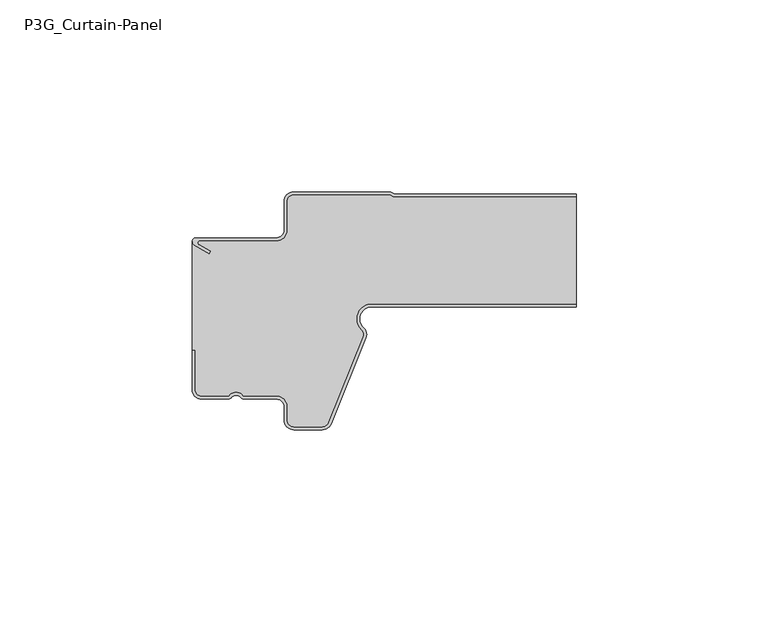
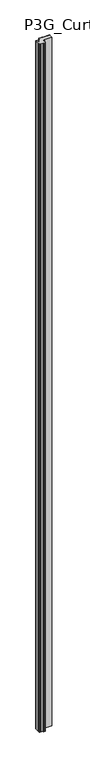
"""IFC4 building model written with IfcOpenShell, lengths in millimetres: plate geometry, P3G_Curtain-Panel : ACH_P3G_3-Rib-Roof-Panel_30M."""

from ifc_helpers import new_model, si_unit, point, frame_2d, origin, origin_with_axes, place, context, project, spatial, polyline, circle_curve, trimmed, segment, composite_curve, outline, extrude, source, transform, mapped, element, save


def p3g_curtain_panel_c1845356(model_context):
    return source(origin(), model_context, "Body", "SweptSolid", [
        extrude(outline(composite_curve([segment(polyline([(-49.496875, -13.8660254), (-45.496875, -16.1754265), (-45.096875, -15.4826062), (-48.1272598, -13.7330127)]), True, "CONTINUOUS"), segment(trimmed(circle_curve(frame_2d((-47.8772598, -13.3)), 0.5), [point((-48.1272598, -13.7330127))], [point((-47.8772598, -12.8))], False, "CARTESIAN"), True, "CONTINUOUS"), segment(polyline([(-47.8772598, -12.8), (-27.996875, -12.8)]), True, "CONTINUOUS"), segment(trimmed(circle_curve(frame_2d((-27.996875, -10.0)), 2.8), [point((-27.996875, -12.8))], [point((-25.196875, -10.0))], True, "CARTESIAN"), True, "CONTINUOUS"), segment(polyline([(-25.196875, -10.0), (-25.196875, -2.5)]), True, "CONTINUOUS"), segment(trimmed(circle_curve(frame_2d((-23.496875, -2.5)), 1.7), [point((-25.196875, -2.5))], [point((-23.496875, -0.8))], False, "CARTESIAN"), True, "CONTINUOUS"), segment(polyline([(-23.496875, -0.8), (1.5686408, -0.8), (2.5661408, -1.4), (50.0, -1.4), (50.0, -29.2), (-3.2387629, -29.2)]), True, "CONTINUOUS"), segment(trimmed(circle_curve(frame_2d((-3.2387629, -33.1)), 3.9), [point((-3.2387629, -29.2))], [point((-5.8938106, -35.9566976))], True, "CARTESIAN"), True, "CONTINUOUS"), segment(trimmed(circle_curve(frame_2d((-7.0511391, -37.2019248)), 1.7), [point((-5.8938106, -35.9566976))], [point((-5.4749266, -37.838756))], False, "CARTESIAN"), True, "CONTINUOUS"), segment(polyline([(-5.4749266, -37.838756), (-14.4839337, -60.1368312)]), True, "CONTINUOUS"), segment(trimmed(circle_curve(frame_2d((-16.0601463, -59.5)), 1.7), [point((-14.4839337, -60.1368312))], [point((-16.0601463, -61.2))], False, "CARTESIAN"), True, "CONTINUOUS"), segment(polyline([(-16.0601463, -61.2), (-23.496875, -61.2)]), True, "CONTINUOUS"), segment(trimmed(circle_curve(frame_2d((-23.496875, -59.5)), 1.7), [point((-23.496875, -61.2))], [point((-25.196875, -59.5))], False, "CARTESIAN"), True, "CONTINUOUS"), segment(polyline([(-25.196875, -59.5), (-25.196875, -56.0)]), True, "CONTINUOUS"), segment(trimmed(circle_curve(frame_2d((-27.996875, -56.0)), 2.8), [point((-25.196875, -56.0))], [point((-27.996875, -53.2))], True, "CARTESIAN"), True, "CONTINUOUS"), segment(polyline([(-27.996875, -53.2), (-36.5995084, -53.2)]), True, "CONTINUOUS"), segment(trimmed(circle_curve(frame_2d((-38.496875, -54.5)), 2.3), [point((-36.5995084, -53.2))], [point((-40.3942416, -53.2))], True, "CARTESIAN"), True, "CONTINUOUS"), segment(polyline([(-40.3942416, -53.2), (-47.496875, -53.2)]), True, "CONTINUOUS"), segment(trimmed(circle_curve(frame_2d((-47.496875, -51.5)), 1.7), [point((-47.496875, -53.2))], [point((-49.196875, -51.5))], False, "CARTESIAN"), True, "CONTINUOUS"), segment(polyline([(-49.196875, -51.5), (-49.196875, -41.18), (-49.996875, -41.18), (-49.996875, -13.0)]), True, "CONTINUOUS"), segment(trimmed(circle_curve(frame_2d((-48.996875, -13.0)), 1.0), [point((-49.996875, -13.0))], [point((-49.496875, -13.8660254))], True, "CARTESIAN"), True, "CONTINUOUS")], self_intersect=False)), origin_with_axes(), (0.0, 0.0, 1.0), 5000.0),
        extrude(outline(composite_curve([segment(trimmed(circle_curve(frame_2d((-28.0, -10.0)), 2.0), [point((-28.0, -12.0))], [point((-26.0, -10.0))], True, "CARTESIAN"), True, "CONTINUOUS"), segment(polyline([(-26.0, -10.0), (-26.0, -2.5)]), True, "CONTINUOUS"), segment(trimmed(circle_curve(frame_2d((-23.5, -2.5)), 2.5), [point((-26.0, -2.5))], [point((-23.5, 0.0))], False, "CARTESIAN"), True, "CONTINUOUS"), segment(polyline([(-23.5, 0.0), (1.7875789, 0.0), (2.7850789, -0.6), (50.0, -0.6), (50.0, -1.4), (2.5630158, -1.4), (1.5655158, -0.8), (-23.5, -0.8)]), True, "CONTINUOUS"), segment(trimmed(circle_curve(frame_2d((-23.5, -2.5)), 1.7), [point((-23.5, -0.8))], [point((-25.2, -2.5))], True, "CARTESIAN"), True, "CONTINUOUS"), segment(polyline([(-25.2, -2.5), (-25.2, -10.0)]), True, "CONTINUOUS"), segment(trimmed(circle_curve(frame_2d((-28.0, -10.0)), 2.8), [point((-25.2, -10.0))], [point((-28.0, -12.8))], False, "CARTESIAN"), True, "CONTINUOUS"), segment(polyline([(-28.0, -12.8), (-47.8803848, -12.8)]), True, "CONTINUOUS"), segment(trimmed(circle_curve(frame_2d((-47.8803848, -13.3)), 0.5), [point((-47.8803848, -12.8))], [point((-48.1303848, -13.7330127))], True, "CARTESIAN"), True, "CONTINUOUS"), segment(polyline([(-48.1303848, -13.7330127), (-45.1, -15.4826062), (-45.5, -16.1754265), (-49.5, -13.8660254)]), True, "CONTINUOUS"), segment(trimmed(circle_curve(frame_2d((-49.0, -13.0)), 1.0), [point((-49.5, -13.8660254))], [point((-49.0, -12.0))], False, "CARTESIAN"), True, "CONTINUOUS"), segment(polyline([(-49.0, -12.0), (-28.0, -12.0)]), True, "CONTINUOUS")], self_intersect=False)), origin_with_axes(), (0.0, 0.0, 1.0), 5000.0),
        extrude(outline(composite_curve([segment(polyline([(-50.0, -51.5), (-50.0, -41.18), (-49.2, -41.18), (-49.2, -51.5)]), True, "CONTINUOUS"), segment(trimmed(circle_curve(frame_2d((-47.5, -51.5)), 1.7), [point((-49.2, -51.5))], [point((-47.5, -53.2))], True, "CARTESIAN"), True, "CONTINUOUS"), segment(polyline([(-47.5, -53.2), (-40.3973666, -53.2)]), True, "CONTINUOUS"), segment(trimmed(circle_curve(frame_2d((-38.5, -54.5)), 2.3), [point((-40.3973666, -53.2))], [point((-36.6026334, -53.2))], False, "CARTESIAN"), True, "CONTINUOUS"), segment(polyline([(-36.6026334, -53.2), (-28.0, -53.2)]), True, "CONTINUOUS"), segment(trimmed(circle_curve(frame_2d((-28.0, -56.0)), 2.8), [point((-28.0, -53.2))], [point((-25.2, -56.0))], False, "CARTESIAN"), True, "CONTINUOUS"), segment(polyline([(-25.2, -56.0), (-25.2, -59.5)]), True, "CONTINUOUS"), segment(trimmed(circle_curve(frame_2d((-23.5, -59.5)), 1.7), [point((-25.2, -59.5))], [point((-23.5, -61.2))], True, "CARTESIAN"), True, "CONTINUOUS"), segment(polyline([(-23.5, -61.2), (-16.0632713, -61.2)]), True, "CONTINUOUS"), segment(trimmed(circle_curve(frame_2d((-16.0632713, -59.5)), 1.7), [point((-16.0632713, -61.2))], [point((-14.4870587, -60.1368312))], True, "CARTESIAN"), True, "CONTINUOUS"), segment(polyline([(-14.4870587, -60.1368312), (-5.4780516, -37.838756)]), True, "CONTINUOUS"), segment(trimmed(circle_curve(frame_2d((-7.0542641, -37.2019248)), 1.7), [point((-5.4780516, -37.838756))], [point((-5.8969356, -35.9566976))], True, "CARTESIAN"), True, "CONTINUOUS"), segment(trimmed(circle_curve(frame_2d((-3.2418879, -33.1)), 3.9), [point((-5.8969356, -35.9566976))], [point((-3.2418879, -29.2))], False, "CARTESIAN"), True, "CONTINUOUS"), segment(polyline([(-3.2418879, -29.2), (50.0, -29.2), (50.0, -30.0), (-3.2418879, -30.0)]), True, "CONTINUOUS"), segment(trimmed(circle_curve(frame_2d((-3.2418879, -33.1)), 3.1), [point((-3.2418879, -30.0))], [point((-5.3523104, -35.3707084))], True, "CARTESIAN"), True, "CONTINUOUS"), segment(trimmed(circle_curve(frame_2d((-7.0542641, -37.2019248)), 2.5), [point((-5.3523104, -35.3707084))], [point((-4.7363045, -38.1384413))], False, "CARTESIAN"), True, "CONTINUOUS"), segment(polyline([(-4.7363045, -38.1384413), (-13.7453117, -60.4365165)]), True, "CONTINUOUS"), segment(trimmed(circle_curve(frame_2d((-16.0632713, -59.5)), 2.5), [point((-13.7453117, -60.4365165))], [point((-16.0632713, -62.0))], False, "CARTESIAN"), True, "CONTINUOUS"), segment(polyline([(-16.0632713, -62.0), (-23.5, -62.0)]), True, "CONTINUOUS"), segment(trimmed(circle_curve(frame_2d((-23.5, -59.5)), 2.5), [point((-23.5, -62.0))], [point((-26.0, -59.5))], False, "CARTESIAN"), True, "CONTINUOUS"), segment(polyline([(-26.0, -59.5), (-26.0, -56.0)]), True, "CONTINUOUS"), segment(trimmed(circle_curve(frame_2d((-28.0, -56.0)), 2.0), [point((-26.0, -56.0))], [point((-28.0, -54.0))], True, "CARTESIAN"), True, "CONTINUOUS"), segment(polyline([(-28.0, -54.0), (-36.263932, -54.0)]), True, "CONTINUOUS"), segment(trimmed(circle_curve(frame_2d((-36.263932, -52.5)), 1.5), [point((-36.263932, -54.0))], [point((-37.381966, -53.5))], False, "CARTESIAN"), True, "CONTINUOUS"), segment(trimmed(circle_curve(frame_2d((-38.5, -54.5)), 1.5), [point((-37.381966, -53.5))], [point((-39.618034, -53.5))], True, "CARTESIAN"), True, "CONTINUOUS"), segment(trimmed(circle_curve(frame_2d((-40.736068, -52.5)), 1.5), [point((-39.618034, -53.5))], [point((-40.736068, -54.0))], False, "CARTESIAN"), True, "CONTINUOUS"), segment(polyline([(-40.736068, -54.0), (-47.5, -54.0)]), True, "CONTINUOUS"), segment(trimmed(circle_curve(frame_2d((-47.5, -51.5)), 2.5), [point((-47.5, -54.0))], [point((-50.0, -51.5))], False, "CARTESIAN"), True, "CONTINUOUS")], self_intersect=False)), origin_with_axes(), (0.0, 0.0, 1.0), 5000.0),
    ])


if __name__ == "__main__":
    model = new_model("IFC4")
    model_context = context("Model", 3, world=origin())
    ifc_project = project(units=[si_unit("LENGTHUNIT", "METRE", prefix="MILLI")], contexts=[model_context])
    site = spatial("IfcSite", under=ifc_project)
    building = spatial("IfcBuilding", under=site)
    placement = place(None, origin())
    p3g_curtain_panel_shape = p3g_curtain_panel_c1845356(model_context)
    element("IfcPlate", 1, ObjectType="P3G_Curtain-Panel : ACH_P3G_3-Rib-Roof-Panel_30M", at=placement, inside=building, context=model_context, shape_type="MappedRepresentation", body=[
        mapped(p3g_curtain_panel_shape, transform((0.0, 0.0, 0.0), x_axis=(1.0, 0.0, 0.0), y_axis=(0.0, 1.0, 0.0), z_axis=(0.0, 0.0, 1.0))),
    ])
    save(model, "model.ifc")
